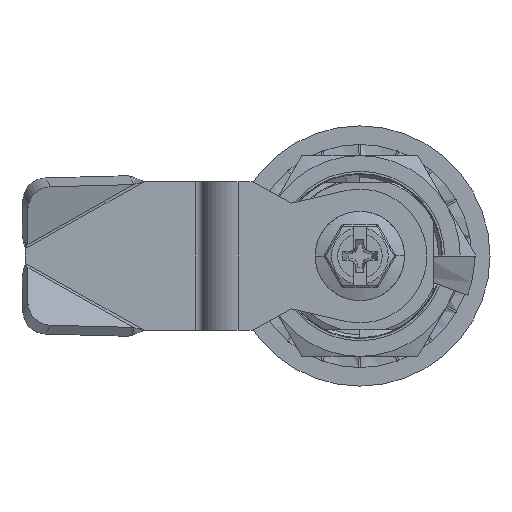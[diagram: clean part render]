
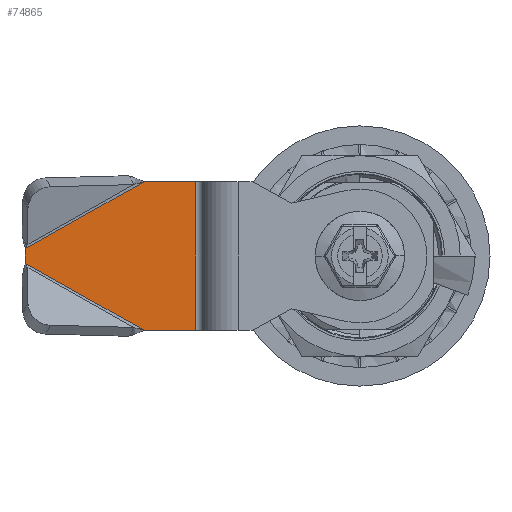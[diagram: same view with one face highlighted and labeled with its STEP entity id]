
A CAD part, front view. The second image highlights one B-rep face of the part: STEP entity #74865.
In plain terms, the highlighted planar face has unit normal (0, -1, 0).
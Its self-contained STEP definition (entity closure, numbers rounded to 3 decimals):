
#73944=DIRECTION('',(0.,0.,1.));
#73945=VECTOR('',#73944,20.);
#73946=CARTESIAN_POINT('',(22.09,0.,-10.));
#73947=LINE('',#73946,#73945);
#73966=DIRECTION('',(-1.,0.,0.));
#73967=VECTOR('',#73966,6.91);
#73968=CARTESIAN_POINT('',(29.,0.,10.));
#73969=LINE('',#73968,#73967);
#74086=DIRECTION('',(-1.,0.,0.));
#74087=VECTOR('',#74086,6.91);
#74088=CARTESIAN_POINT('',(29.,0.,-10.));
#74089=LINE('',#74088,#74087);
#74090=DIRECTION('',(-0.872,0.,-0.49));
#74091=VECTOR('',#74090,18.358);
#74092=CARTESIAN_POINT('',(45.,0.,-1.));
#74093=LINE('',#74092,#74091);
#74094=DIRECTION('',(-0.872,0.,0.49));
#74095=VECTOR('',#74094,18.358);
#74096=CARTESIAN_POINT('',(45.,0.,1.));
#74097=LINE('',#74096,#74095);
#74098=DIRECTION('',(0.,0.,1.));
#74099=VECTOR('',#74098,2.);
#74100=CARTESIAN_POINT('',(45.,0.,-1.));
#74101=LINE('',#74100,#74099);
#74258=CARTESIAN_POINT('',(22.09,0.,-10.));
#74259=VERTEX_POINT('',#74258);
#74264=CARTESIAN_POINT('',(22.09,0.,10.));
#74265=VERTEX_POINT('',#74264);
#74284=CARTESIAN_POINT('',(29.,0.,10.));
#74285=VERTEX_POINT('',#74284);
#74295=CARTESIAN_POINT('',(45.,0.,1.));
#74296=VERTEX_POINT('',#74295);
#74299=CARTESIAN_POINT('',(29.,0.,-10.));
#74300=VERTEX_POINT('',#74299);
#74303=CARTESIAN_POINT('',(45.,0.,-1.));
#74304=VERTEX_POINT('',#74303);
#74849=CARTESIAN_POINT('',(45.,0.,-10.));
#74850=DIRECTION('',(0.,1.,0.));
#74851=DIRECTION('',(-1.,0.,0.));
#74852=AXIS2_PLACEMENT_3D('',#74849,#74850,#74851);
#74853=PLANE('',#74852);
#74855=ORIENTED_EDGE('',*,*,#74854,.T.);
#74856=ORIENTED_EDGE('',*,*,#74844,.T.);
#74857=ORIENTED_EDGE('',*,*,#74627,.T.);
#74858=ORIENTED_EDGE('',*,*,#74653,.F.);
#74860=ORIENTED_EDGE('',*,*,#74859,.F.);
#74862=ORIENTED_EDGE('',*,*,#74861,.F.);
#74863=EDGE_LOOP('',(#74855,#74856,#74857,#74858,#74860,#74862));
#74864=FACE_OUTER_BOUND('',#74863,.F.);
#74865=ADVANCED_FACE('',(#74864),#74853,.F.);
#74627=EDGE_CURVE('',#74259,#74265,#73947,.T.);
#74653=EDGE_CURVE('',#74285,#74265,#73969,.T.);
#74844=EDGE_CURVE('',#74300,#74259,#74089,.T.);
#74854=EDGE_CURVE('',#74304,#74300,#74093,.T.);
#74859=EDGE_CURVE('',#74296,#74285,#74097,.T.);
#74861=EDGE_CURVE('',#74304,#74296,#74101,.T.);
